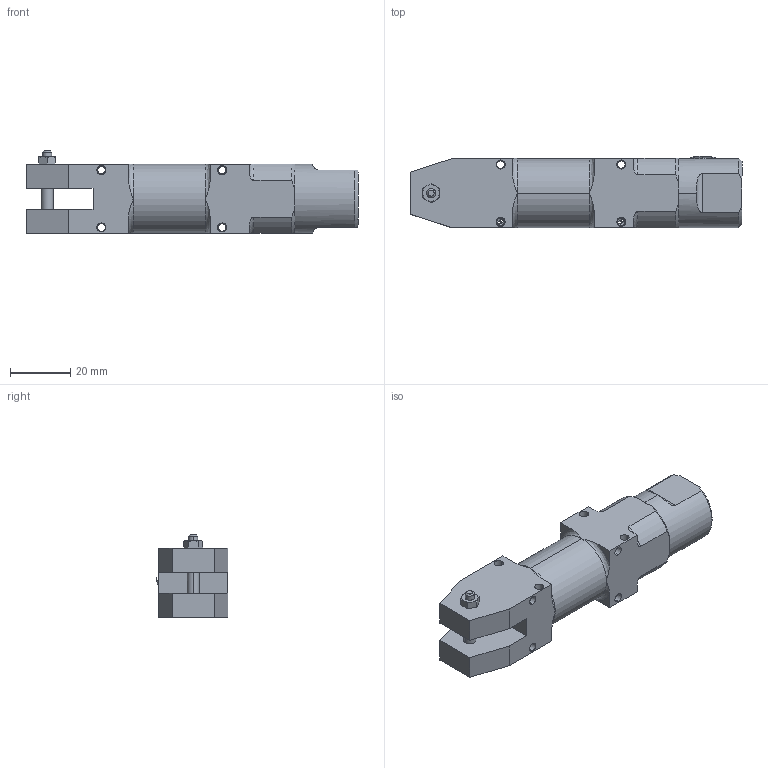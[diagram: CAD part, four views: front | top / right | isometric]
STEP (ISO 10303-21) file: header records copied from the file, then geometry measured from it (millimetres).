
FILE_DESCRIPTION (( 'STEP AP214' ), '1' );
FILE_NAME ('GT-NS3.STEP', '2019-11-27T09:27:59', ( '微软用户' ), ( '微软中国' ), 'SwSTEP 2.0', 'SolidWorks 2016', '' );
FILE_SCHEMA (( 'AUTOMOTIVE_DESIGN' ));
Length unit declared in the file: millimetre
Products named in the file (1): GT-NS3
Bounding box: 110 x 23.82 x 27.5 mm (x, y, z)
Surface area: 12006.9 mm2 (no closed solid volume)
Topology: 0 solids, 4 shells, 188 faces, 494 edges, 325 vertices
Faces by surface type: plane 81, cylinder 64, cone 25, bspline 18
Entity records: 8104 total; most frequent: CARTESIAN_POINT 3689, ORIENTED_EDGE 909, DIRECTION 841, EDGE_CURVE 488, AXIS2_PLACEMENT_3D 332, VERTEX_POINT 325, EDGE_LOOP 236, ADVANCED_FACE 188
